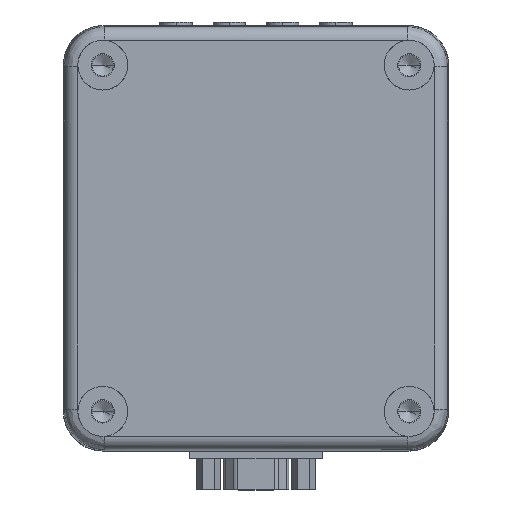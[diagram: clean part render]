
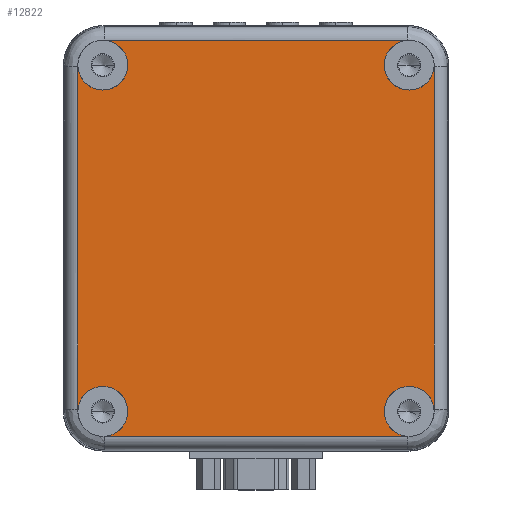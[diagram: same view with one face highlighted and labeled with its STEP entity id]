
A CAD part, top view. The second image highlights one B-rep face of the part: STEP entity #12822.
In plain terms, the highlighted planar face has unit normal (0, 0, 1).
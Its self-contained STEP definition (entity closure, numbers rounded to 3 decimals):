
#2506 = CARTESIAN_POINT ( 'NONE',  ( 22.25, 23., 10. ) ) ;
#2571 = DIRECTION ( 'NONE',  ( 1., 0., 0. ) ) ;
#2572 = DIRECTION ( 'NONE',  ( 0., 0., 1. ) ) ;
#2573 = CARTESIAN_POINT ( 'NONE',  ( 26., -23., 10. ) ) ;
#2574 = AXIS2_PLACEMENT_3D ( 'NONE', #2573, #2572, #2571 ) ;
#2575 = CIRCLE ( 'NONE', #2574, 3.75 ) ;
#2576 = CARTESIAN_POINT ( 'NONE',  ( 25.666, -26.735, 10. ) ) ;
#2577 = CARTESIAN_POINT ( 'NONE',  ( 22.25, -23., 10. ) ) ;
#2593 = DIRECTION ( 'NONE',  ( 0., 0., 1. ) ) ;
#2594 = CARTESIAN_POINT ( 'NONE',  ( 26., 23., 10. ) ) ;
#2595 = AXIS2_PLACEMENT_3D ( 'NONE', #2594, #2593, #2649 ) ;
#2596 = CIRCLE ( 'NONE', #2595, 3.75 ) ;
#2648 = CARTESIAN_POINT ( 'NONE',  ( 29.735, 22.666, 10. ) ) ;
#2649 = DIRECTION ( 'NONE',  ( 1., 0., 0. ) ) ;
#2699 = CARTESIAN_POINT ( 'NONE',  ( -22.25, 23., 10. ) ) ;
#2700 = DIRECTION ( 'NONE',  ( 1., 0., 0. ) ) ;
#2701 = DIRECTION ( 'NONE',  ( 0., 0., 1. ) ) ;
#2702 = AXIS2_PLACEMENT_3D ( 'NONE', #2708, #2701, #2700 ) ;
#2703 = CIRCLE ( 'NONE', #2702, 3.75 ) ;
#2708 = CARTESIAN_POINT ( 'NONE',  ( -26., 23., 10. ) ) ;
#2716 = CARTESIAN_POINT ( 'NONE',  ( -29.735, 22.666, 10. ) ) ;
#2781 = CARTESIAN_POINT ( 'NONE',  ( -22.25, -23., 10. ) ) ;
#2782 = CARTESIAN_POINT ( 'NONE',  ( -25.666, -26.735, 10. ) ) ;
#2892 = DIRECTION ( 'NONE',  ( 1., 0., 0. ) ) ;
#2893 = DIRECTION ( 'NONE',  ( 0., 0., 1. ) ) ;
#2894 = CARTESIAN_POINT ( 'NONE',  ( -26., -23., 10. ) ) ;
#2895 = AXIS2_PLACEMENT_3D ( 'NONE', #2894, #2893, #2892 ) ;
#2896 = CIRCLE ( 'NONE', #2895, 3.75 ) ;
#4366 = CARTESIAN_POINT ( 'NONE',  ( -25.666, 26.735, 10. ) ) ;
#4549 = VECTOR ( 'NONE', #4657, 1000. ) ;
#4657 = DIRECTION ( 'NONE',  ( -1., 0., 0. ) ) ;
#4658 = CARTESIAN_POINT ( 'NONE',  ( 0., 26.735, 10. ) ) ;
#4659 = LINE ( 'NONE', #4658, #4549 ) ;
#4696 = DIRECTION ( 'NONE',  ( 0., 1., 0. ) ) ;
#4697 = VECTOR ( 'NONE', #4696, 1000. ) ;
#4698 = CARTESIAN_POINT ( 'NONE',  ( 29.735, 0., 10. ) ) ;
#4699 = LINE ( 'NONE', #4698, #4697 ) ;
#4722 = CARTESIAN_POINT ( 'NONE',  ( 25.666, 26.735, 10. ) ) ;
#4748 = CARTESIAN_POINT ( 'NONE',  ( 29.735, -22.666, 10. ) ) ;
#4977 = DIRECTION ( 'NONE',  ( 1., 0., 0. ) ) ;
#4978 = DIRECTION ( 'NONE',  ( 0., 0., 1. ) ) ;
#4979 = CARTESIAN_POINT ( 'NONE',  ( -26., 23., 10. ) ) ;
#4980 = AXIS2_PLACEMENT_3D ( 'NONE', #4979, #4978, #4977 ) ;
#4981 = CIRCLE ( 'NONE', #4980, 3.75 ) ;
#4982 = DIRECTION ( 'NONE',  ( 1., 0., 0. ) ) ;
#4983 = DIRECTION ( 'NONE',  ( 0., 0., 1. ) ) ;
#4984 = AXIS2_PLACEMENT_3D ( 'NONE', #5001, #4983, #4982 ) ;
#4985 = CIRCLE ( 'NONE', #4984, 3.75 ) ;
#4986 = DIRECTION ( 'NONE',  ( 1., 0., 0. ) ) ;
#4987 = DIRECTION ( 'NONE',  ( 0., 0., 1. ) ) ;
#4988 = CARTESIAN_POINT ( 'NONE',  ( 26., -23., 10. ) ) ;
#4999 = AXIS2_PLACEMENT_3D ( 'NONE', #4988, #4987, #4986 ) ;
#5000 = CIRCLE ( 'NONE', #4999, 3.75 ) ;
#5001 = CARTESIAN_POINT ( 'NONE',  ( 26., 23., 10. ) ) ;
#5003 = CARTESIAN_POINT ( 'NONE',  ( -29.735, -22.666, 10. ) ) ;
#5005 = LINE ( 'NONE', #5052, #5051 ) ;
#5017 = DIRECTION ( 'NONE',  ( 1., 0., 0. ) ) ;
#5018 = DIRECTION ( 'NONE',  ( 0., 0., 1. ) ) ;
#5019 = AXIS2_PLACEMENT_3D ( 'NONE', #5020, #5018, #5017 ) ;
#5020 = CARTESIAN_POINT ( 'NONE',  ( 0., 0., 10. ) ) ;
#5021 = PLANE ( 'NONE',  #5019 ) ;
#5022 = FACE_OUTER_BOUND ( 'NONE', #12882, .T. ) ;
#5023 = DIRECTION ( 'NONE',  ( 1., 0., 0. ) ) ;
#5024 = VECTOR ( 'NONE', #5023, 1000. ) ;
#5025 = CARTESIAN_POINT ( 'NONE',  ( 0., -26.735, 10. ) ) ;
#5026 = LINE ( 'NONE', #5025, #5024 ) ;
#5050 = DIRECTION ( 'NONE',  ( 0., -1., 0. ) ) ;
#5051 = VECTOR ( 'NONE', #5050, 1000. ) ;
#5052 = CARTESIAN_POINT ( 'NONE',  ( -29.735, 0., 10. ) ) ;
#5099 = DIRECTION ( 'NONE',  ( 1., 0., 0. ) ) ;
#5100 = DIRECTION ( 'NONE',  ( 0., 0., 1. ) ) ;
#5101 = AXIS2_PLACEMENT_3D ( 'NONE', #5108, #5100, #5099 ) ;
#5102 = CIRCLE ( 'NONE', #5101, 3.75 ) ;
#5108 = CARTESIAN_POINT ( 'NONE',  ( -26., -23., 10. ) ) ;
#11945 = VERTEX_POINT ( 'NONE', #2506 ) ;
#11975 = VERTEX_POINT ( 'NONE', #2577 ) ;
#11977 = EDGE_CURVE ( 'NONE', #11975, #11978, #2575, .T. ) ;
#11978 = VERTEX_POINT ( 'NONE', #2576 ) ;
#12002 = EDGE_CURVE ( 'NONE', #11945, #12003, #2596, .T. ) ;
#12003 = VERTEX_POINT ( 'NONE', #2648 ) ;
#12031 = EDGE_CURVE ( 'NONE', #12057, #12032, #2703, .T. ) ;
#12032 = VERTEX_POINT ( 'NONE', #2699 ) ;
#12057 = VERTEX_POINT ( 'NONE', #2716 ) ;
#12082 = VERTEX_POINT ( 'NONE', #2782 ) ;
#12083 = VERTEX_POINT ( 'NONE', #2781 ) ;
#12143 = EDGE_CURVE ( 'NONE', #12082, #12083, #2896, .T. ) ;
#12762 = VERTEX_POINT ( 'NONE', #4366 ) ;
#12764 = EDGE_CURVE ( 'NONE', #12765, #12762, #4659, .T. ) ;
#12765 = VERTEX_POINT ( 'NONE', #4722 ) ;
#12775 = EDGE_CURVE ( 'NONE', #12776, #12003, #4699, .T. ) ;
#12776 = VERTEX_POINT ( 'NONE', #4748 ) ;
#12801 = ORIENTED_EDGE ( 'NONE', *, *, #12802, .F. ) ;
#12802 = EDGE_CURVE ( 'NONE', #12776, #11975, #5000, .T. ) ;
#12803 = ORIENTED_EDGE ( 'NONE', *, *, #12775, .T. ) ;
#12804 = ORIENTED_EDGE ( 'NONE', *, *, #12002, .F. ) ;
#12805 = ORIENTED_EDGE ( 'NONE', *, *, #12806, .F. ) ;
#12806 = EDGE_CURVE ( 'NONE', #12765, #11945, #4985, .T. ) ;
#12807 = ORIENTED_EDGE ( 'NONE', *, *, #12764, .T. ) ;
#12808 = ORIENTED_EDGE ( 'NONE', *, *, #12809, .F. ) ;
#12809 = EDGE_CURVE ( 'NONE', #12032, #12762, #4981, .T. ) ;
#12810 = ORIENTED_EDGE ( 'NONE', *, *, #12031, .F. ) ;
#12819 = EDGE_CURVE ( 'NONE', #12082, #11978, #5026, .T. ) ;
#12822 = ADVANCED_FACE ( 'NONE', ( #5022 ), #5021, .T. ) ;
#12830 = VERTEX_POINT ( 'NONE', #5003 ) ;
#12832 = EDGE_CURVE ( 'NONE', #12057, #12830, #5005, .T. ) ;
#12868 = ORIENTED_EDGE ( 'NONE', *, *, #12832, .T. ) ;
#12869 = ORIENTED_EDGE ( 'NONE', *, *, #12870, .F. ) ;
#12870 = EDGE_CURVE ( 'NONE', #12083, #12830, #5102, .T. ) ;
#12871 = ORIENTED_EDGE ( 'NONE', *, *, #12143, .F. ) ;
#12872 = ORIENTED_EDGE ( 'NONE', *, *, #12819, .T. ) ;
#12873 = ORIENTED_EDGE ( 'NONE', *, *, #11977, .F. ) ;
#12882 = EDGE_LOOP ( 'NONE', ( #12801, #12803, #12804, #12805, #12807, #12808, #12810, #12868, #12869, #12871, #12872, #12873 ) ) ;
